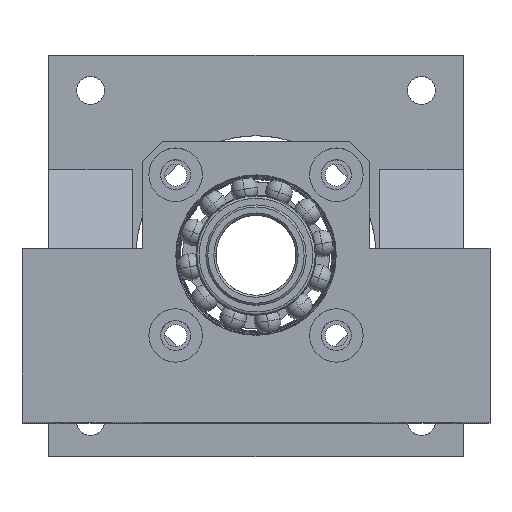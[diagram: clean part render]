
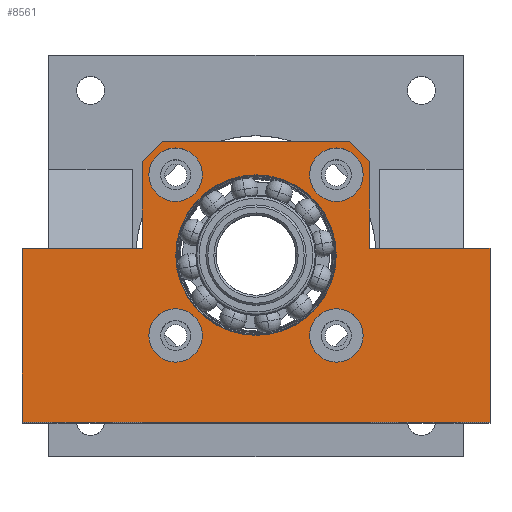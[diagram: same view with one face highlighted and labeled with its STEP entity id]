
A CAD part, top view. The second image highlights one B-rep face of the part: STEP entity #8561.
In plain terms, the highlighted planar face has unit normal (0, 0, 1).
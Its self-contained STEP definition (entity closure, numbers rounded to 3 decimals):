
#6237=DIRECTION('',(-1.,0.,0.));
#6238=VECTOR('',#6237,70.);
#6239=CARTESIAN_POINT('',(35.,-25.,178.));
#6240=LINE('',#6239,#6238);
#6821=CARTESIAN_POINT('',(-12.021,12.021,178.));
#6822=DIRECTION('',(0.,0.,-1.));
#6823=DIRECTION('',(1.,0.,0.));
#6824=AXIS2_PLACEMENT_3D('',#6821,#6822,#6823);
#6826=CARTESIAN_POINT('',(-12.021,12.021,178.));
#6827=DIRECTION('',(0.,0.,-1.));
#6828=DIRECTION('',(-1.,0.,0.));
#6829=AXIS2_PLACEMENT_3D('',#6826,#6827,#6828);
#6831=CARTESIAN_POINT('',(-12.021,-12.021,178.));
#6832=DIRECTION('',(0.,0.,-1.));
#6833=DIRECTION('',(1.,0.,0.));
#6834=AXIS2_PLACEMENT_3D('',#6831,#6832,#6833);
#6836=CARTESIAN_POINT('',(-12.021,-12.021,178.));
#6837=DIRECTION('',(0.,0.,-1.));
#6838=DIRECTION('',(-1.,0.,0.));
#6839=AXIS2_PLACEMENT_3D('',#6836,#6837,#6838);
#6841=CARTESIAN_POINT('',(12.021,-12.021,178.));
#6842=DIRECTION('',(0.,0.,-1.));
#6843=DIRECTION('',(1.,0.,0.));
#6844=AXIS2_PLACEMENT_3D('',#6841,#6842,#6843);
#6846=CARTESIAN_POINT('',(12.021,-12.021,178.));
#6847=DIRECTION('',(0.,0.,-1.));
#6848=DIRECTION('',(-1.,0.,0.));
#6849=AXIS2_PLACEMENT_3D('',#6846,#6847,#6848);
#6851=CARTESIAN_POINT('',(12.021,12.021,178.));
#6852=DIRECTION('',(0.,0.,-1.));
#6853=DIRECTION('',(1.,0.,0.));
#6854=AXIS2_PLACEMENT_3D('',#6851,#6852,#6853);
#6856=CARTESIAN_POINT('',(12.021,12.021,178.));
#6857=DIRECTION('',(0.,0.,-1.));
#6858=DIRECTION('',(-1.,0.,0.));
#6859=AXIS2_PLACEMENT_3D('',#6856,#6857,#6858);
#6861=CARTESIAN_POINT('',(0.,0.,178.));
#6862=DIRECTION('',(0.,0.,-1.));
#6863=DIRECTION('',(-1.,0.,0.));
#6864=AXIS2_PLACEMENT_3D('',#6861,#6862,#6863);
#6866=CARTESIAN_POINT('',(0.,0.,178.));
#6867=DIRECTION('',(0.,0.,-1.));
#6868=DIRECTION('',(1.,0.,0.));
#6869=AXIS2_PLACEMENT_3D('',#6866,#6867,#6868);
#6871=DIRECTION('',(-0.707,0.707,0.));
#6872=VECTOR('',#6871,4.243);
#6873=CARTESIAN_POINT('',(17.,14.,178.));
#6874=LINE('',#6873,#6872);
#6875=DIRECTION('',(-0.707,-0.707,0.));
#6876=VECTOR('',#6875,4.243);
#6877=CARTESIAN_POINT('',(-14.,17.,178.));
#6878=LINE('',#6877,#6876);
#7023=DIRECTION('',(1.,0.,0.));
#7024=VECTOR('',#7023,28.);
#7025=CARTESIAN_POINT('',(-14.,17.,178.));
#7026=LINE('',#7025,#7024);
#7035=DIRECTION('',(0.,1.,0.));
#7036=VECTOR('',#7035,13.);
#7037=CARTESIAN_POINT('',(-17.,1.,178.));
#7038=LINE('',#7037,#7036);
#7091=DIRECTION('',(1.,0.,0.));
#7092=VECTOR('',#7091,18.);
#7093=CARTESIAN_POINT('',(-35.,1.,178.));
#7094=LINE('',#7093,#7092);
#7291=DIRECTION('',(1.,0.,0.));
#7292=VECTOR('',#7291,18.);
#7293=CARTESIAN_POINT('',(17.,1.,178.));
#7294=LINE('',#7293,#7292);
#7407=DIRECTION('',(0.,-1.,0.));
#7408=VECTOR('',#7407,26.);
#7409=CARTESIAN_POINT('',(35.,1.,178.));
#7410=LINE('',#7409,#7408);
#7415=DIRECTION('',(0.,-1.,0.));
#7416=VECTOR('',#7415,13.);
#7417=CARTESIAN_POINT('',(17.,14.,178.));
#7418=LINE('',#7417,#7416);
#7471=DIRECTION('',(0.,1.,0.));
#7472=VECTOR('',#7471,26.);
#7473=CARTESIAN_POINT('',(-35.,-25.,178.));
#7474=LINE('',#7473,#7472);
#7521=CARTESIAN_POINT('',(17.,1.,178.));
#7522=VERTEX_POINT('',#7521);
#7523=CARTESIAN_POINT('',(35.,1.,178.));
#7524=VERTEX_POINT('',#7523);
#7551=CARTESIAN_POINT('',(-14.,17.,178.));
#7552=CARTESIAN_POINT('',(14.,17.,178.));
#7553=VERTEX_POINT('',#7551);
#7554=VERTEX_POINT('',#7552);
#7555=CARTESIAN_POINT('',(-17.,14.,178.));
#7556=VERTEX_POINT('',#7555);
#7557=CARTESIAN_POINT('',(-17.,1.,178.));
#7558=VERTEX_POINT('',#7557);
#7567=CARTESIAN_POINT('',(-35.,1.,178.));
#7568=VERTEX_POINT('',#7567);
#7569=CARTESIAN_POINT('',(-35.,-25.,178.));
#7570=VERTEX_POINT('',#7569);
#7595=CARTESIAN_POINT('',(35.,-25.,178.));
#7596=VERTEX_POINT('',#7595);
#7597=CARTESIAN_POINT('',(17.,14.,178.));
#7598=VERTEX_POINT('',#7597);
#7624=CARTESIAN_POINT('',(-8.021,-12.021,178.));
#7626=VERTEX_POINT('',#7624);
#7628=CARTESIAN_POINT('',(-16.021,-12.021,178.));
#7630=VERTEX_POINT('',#7628);
#7632=CARTESIAN_POINT('',(16.021,12.021,178.));
#7634=VERTEX_POINT('',#7632);
#7636=CARTESIAN_POINT('',(8.021,12.021,178.));
#7638=VERTEX_POINT('',#7636);
#7640=CARTESIAN_POINT('',(16.021,-12.021,178.));
#7642=VERTEX_POINT('',#7640);
#7644=CARTESIAN_POINT('',(8.021,-12.021,178.));
#7646=VERTEX_POINT('',#7644);
#7648=CARTESIAN_POINT('',(-8.021,12.021,178.));
#7650=VERTEX_POINT('',#7648);
#7652=CARTESIAN_POINT('',(-16.021,12.021,178.));
#7654=VERTEX_POINT('',#7652);
#7656=CARTESIAN_POINT('',(-12.,0.,178.));
#7658=VERTEX_POINT('',#7656);
#7660=CARTESIAN_POINT('',(12.,0.,178.));
#7662=VERTEX_POINT('',#7660);
#8507=CARTESIAN_POINT('',(17.,1.,178.));
#8508=DIRECTION('',(0.,0.,-1.));
#8509=DIRECTION('',(1.,0.,0.));
#8510=AXIS2_PLACEMENT_3D('',#8507,#8508,#8509);
#8511=PLANE('',#8510);
#8513=ORIENTED_EDGE('',*,*,#8512,.T.);
#8515=ORIENTED_EDGE('',*,*,#8514,.F.);
#8517=ORIENTED_EDGE('',*,*,#8516,.T.);
#8519=ORIENTED_EDGE('',*,*,#8518,.T.);
#8521=ORIENTED_EDGE('',*,*,#8520,.T.);
#8522=ORIENTED_EDGE('',*,*,#7894,.T.);
#8524=ORIENTED_EDGE('',*,*,#8523,.T.);
#8526=ORIENTED_EDGE('',*,*,#8525,.T.);
#8528=ORIENTED_EDGE('',*,*,#8527,.T.);
#8530=ORIENTED_EDGE('',*,*,#8529,.F.);
#8531=EDGE_LOOP('',(#8513,#8515,#8517,#8519,#8521,#8522,#8524,#8526,#8528,
#8530));
#8532=FACE_OUTER_BOUND('',#8531,.F.);
#8534=ORIENTED_EDGE('',*,*,#8533,.F.);
#8536=ORIENTED_EDGE('',*,*,#8535,.F.);
#8537=EDGE_LOOP('',(#8534,#8536));
#8538=FACE_BOUND('',#8537,.F.);
#8540=ORIENTED_EDGE('',*,*,#8539,.F.);
#8542=ORIENTED_EDGE('',*,*,#8541,.F.);
#8543=EDGE_LOOP('',(#8540,#8542));
#8544=FACE_BOUND('',#8543,.F.);
#8546=ORIENTED_EDGE('',*,*,#8545,.F.);
#8548=ORIENTED_EDGE('',*,*,#8547,.F.);
#8549=EDGE_LOOP('',(#8546,#8548));
#8550=FACE_BOUND('',#8549,.F.);
#8551=ORIENTED_EDGE('',*,*,#8500,.F.);
#8552=ORIENTED_EDGE('',*,*,#8486,.F.);
#8553=EDGE_LOOP('',(#8551,#8552));
#8554=FACE_BOUND('',#8553,.F.);
#8556=ORIENTED_EDGE('',*,*,#8555,.F.);
#8558=ORIENTED_EDGE('',*,*,#8557,.F.);
#8559=EDGE_LOOP('',(#8556,#8558));
#8560=FACE_BOUND('',#8559,.F.);
#6825=CIRCLE('',#6824,4.);
#6830=CIRCLE('',#6829,4.);
#6835=CIRCLE('',#6834,4.);
#6840=CIRCLE('',#6839,4.);
#6845=CIRCLE('',#6844,4.);
#6850=CIRCLE('',#6849,4.);
#6855=CIRCLE('',#6854,4.);
#6860=CIRCLE('',#6859,4.);
#6865=CIRCLE('',#6864,12.);
#6870=CIRCLE('',#6869,12.);
#7894=EDGE_CURVE('',#7596,#7570,#6240,.T.);
#8486=EDGE_CURVE('',#7662,#7658,#6870,.T.);
#8500=EDGE_CURVE('',#7658,#7662,#6865,.T.);
#8512=EDGE_CURVE('',#7553,#7554,#7026,.T.);
#8514=EDGE_CURVE('',#7598,#7554,#6874,.T.);
#8516=EDGE_CURVE('',#7598,#7522,#7418,.T.);
#8518=EDGE_CURVE('',#7522,#7524,#7294,.T.);
#8520=EDGE_CURVE('',#7524,#7596,#7410,.T.);
#8523=EDGE_CURVE('',#7570,#7568,#7474,.T.);
#8525=EDGE_CURVE('',#7568,#7558,#7094,.T.);
#8527=EDGE_CURVE('',#7558,#7556,#7038,.T.);
#8529=EDGE_CURVE('',#7553,#7556,#6878,.T.);
#8533=EDGE_CURVE('',#7626,#7630,#6835,.T.);
#8535=EDGE_CURVE('',#7630,#7626,#6840,.T.);
#8539=EDGE_CURVE('',#7642,#7646,#6845,.T.);
#8541=EDGE_CURVE('',#7646,#7642,#6850,.T.);
#8545=EDGE_CURVE('',#7634,#7638,#6855,.T.);
#8547=EDGE_CURVE('',#7638,#7634,#6860,.T.);
#8555=EDGE_CURVE('',#7650,#7654,#6825,.T.);
#8557=EDGE_CURVE('',#7654,#7650,#6830,.T.);
#8561=ADVANCED_FACE('',(#8532,#8538,#8544,#8550,#8554,#8560),#8511,.F.);
